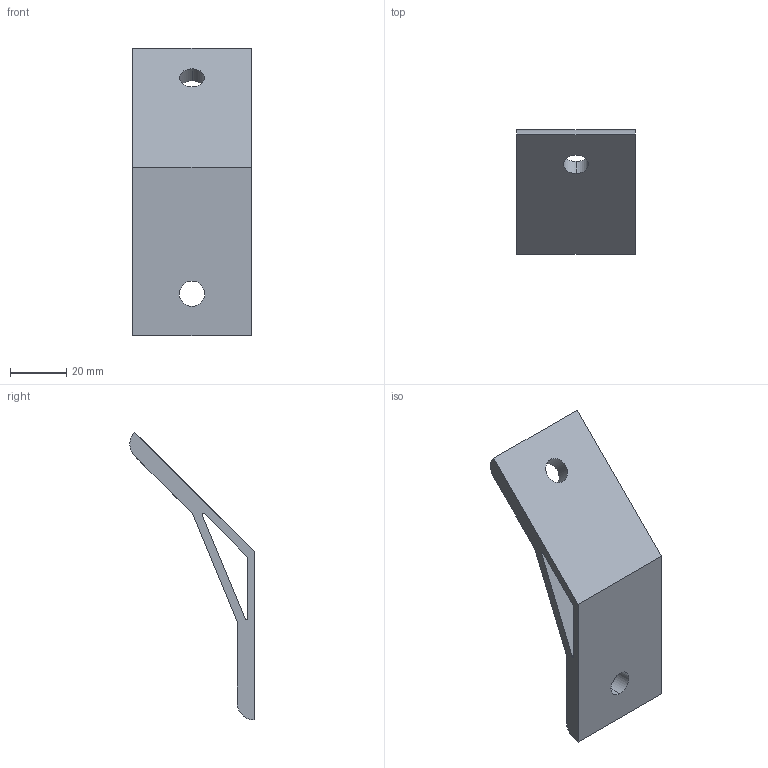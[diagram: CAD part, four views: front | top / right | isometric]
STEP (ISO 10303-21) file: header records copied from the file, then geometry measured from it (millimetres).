
FILE_DESCRIPTION (( 'STEP AP203' ), '1' );
FILE_NAME ('6169.STEP', '2016-06-27T12:06:24', ( 'RosInstal-MKM' ), ( '' ), 'SwSTEP 2.0', 'SolidWorks 2014', '' );
FILE_SCHEMA (( 'CONFIG_CONTROL_DESIGN' ));
Length unit declared in the file: millimetre
Products named in the file (1): 6169
Bounding box: 42 x 44.16 x 102.43 mm (x, y, z)
Volume: 27031.4 mm3; surface area: 15044.8 mm2
Topology: 1 solids, 1 shells, 19 faces, 51 edges, 34 vertices
Faces by surface type: plane 10, cylinder 9
Entity records: 692 total; most frequent: DIRECTION 109, CARTESIAN_POINT 105, ORIENTED_EDGE 102, EDGE_CURVE 51, AXIS2_PLACEMENT_3D 38, VERTEX_POINT 34, VECTOR 33, LINE 33
